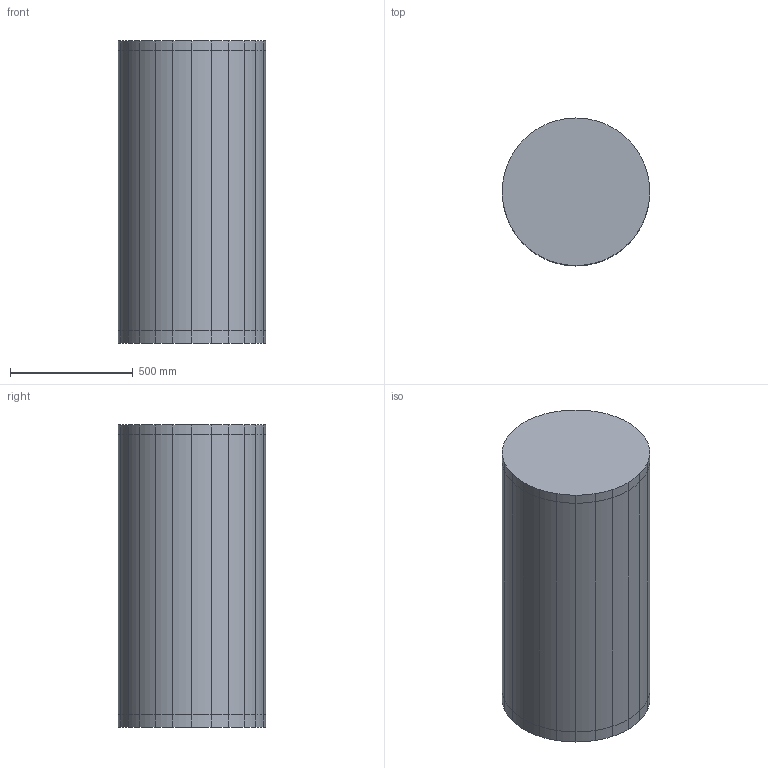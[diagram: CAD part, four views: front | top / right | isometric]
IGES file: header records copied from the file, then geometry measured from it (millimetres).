
Global section: file name: Filename.iges; native system: V0.1; preprocessor: V0.1; author: xxxxxx; date: 20120122.221849; units: millimetre
Bounding box: 600 x 600 x 1230 mm (x, y, z)
Volume: 347774306.8 mm3; surface area: 4014955.4 mm2
Topology: 3 solids, 3 shells, 78 faces, 216 edges, 144 vertices
Faces by surface type: cylinder 72, plane 6
